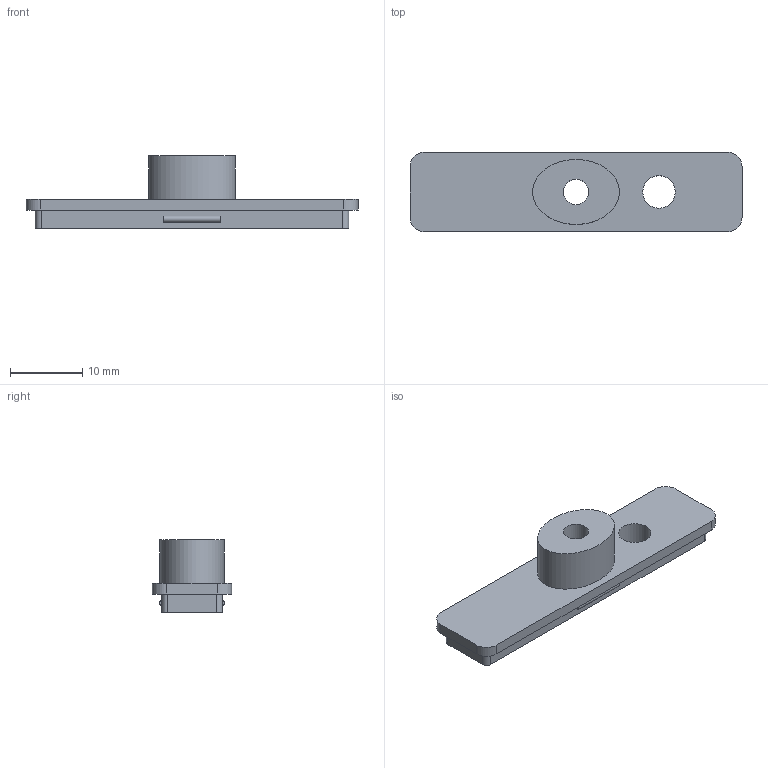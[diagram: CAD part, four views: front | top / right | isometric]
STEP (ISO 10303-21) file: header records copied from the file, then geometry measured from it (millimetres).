
FILE_DESCRIPTION(('Open CASCADE Model'),'2;1');
FILE_NAME('Open CASCADE Shape Model','2026-07-19T18:50:27',('Author'),( 'Open CASCADE'),'Open CASCADE STEP processor 7.9','Open CASCADE 7.9' ,'Unknown');
FILE_SCHEMA(('AUTOMOTIVE_DESIGN { 1 0 10303 214 1 1 1 1 }'));
Length unit declared in the file: millimetre
Products named in the file (1): Open CASCADE STEP translator 7.9 3
Bounding box: 46 x 11 x 10 mm (x, y, z)
Volume: 1962 mm3; surface area: 1767.9 mm2
Topology: 1 solids, 1 shells, 31 faces, 72 edges, 48 vertices
Faces by surface type: plane 17, cylinder 13, extrusion 1
Full cylindrical faces by diameter (mm): 3.5 x1, 4.5 x1, 6.3 x1
Entity records: 1862 total; most frequent: CARTESIAN_POINT 366, DIRECTION 284, VECTOR 145, ORIENTED_EDGE 144, LINE 144, PCURVE 144, DEFINITIONAL_REPRESENTATION 144, EDGE_CURVE 72
